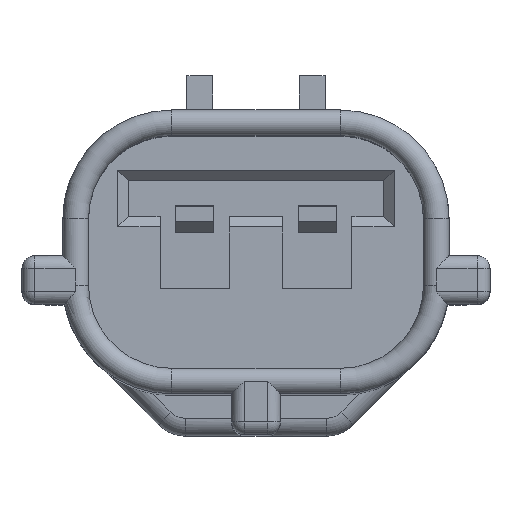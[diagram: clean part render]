
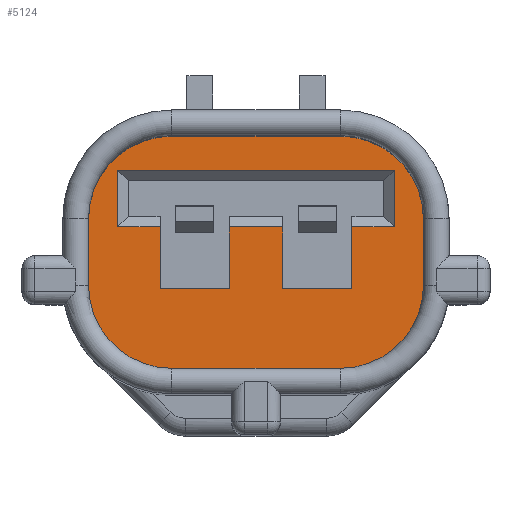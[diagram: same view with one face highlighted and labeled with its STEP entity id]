
A CAD part, top view. The second image highlights one B-rep face of the part: STEP entity #5124.
In plain terms, the highlighted planar face has unit normal (0, 0, 1).
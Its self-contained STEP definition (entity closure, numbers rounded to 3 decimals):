
#1679=CARTESIAN_POINT('',(-3.3,-1.3,-14.2));
#1680=DIRECTION('',(0.,0.,1.));
#1681=DIRECTION('',(-1.,0.,0.));
#1682=AXIS2_PLACEMENT_3D('',#1679,#1680,#1681);
#1684=DIRECTION('',(0.,-1.,0.));
#1685=VECTOR('',#1684,2.6);
#1686=CARTESIAN_POINT('',(-6.55,1.3,-14.2));
#1687=LINE('',#1686,#1685);
#1688=CARTESIAN_POINT('',(-3.3,1.3,-14.2));
#1689=DIRECTION('',(0.,0.,1.));
#1690=DIRECTION('',(0.,1.,0.));
#1691=AXIS2_PLACEMENT_3D('',#1688,#1689,#1690);
#1693=DIRECTION('',(-1.,0.,0.));
#1694=VECTOR('',#1693,6.6);
#1695=CARTESIAN_POINT('',(3.3,4.55,-14.2));
#1696=LINE('',#1695,#1694);
#1697=CARTESIAN_POINT('',(3.3,1.3,-14.2));
#1698=DIRECTION('',(0.,0.,1.));
#1699=DIRECTION('',(1.,0.,0.));
#1700=AXIS2_PLACEMENT_3D('',#1697,#1698,#1699);
#1702=DIRECTION('',(0.,1.,0.));
#1703=VECTOR('',#1702,2.6);
#1704=CARTESIAN_POINT('',(6.55,-1.3,-14.2));
#1705=LINE('',#1704,#1703);
#1706=CARTESIAN_POINT('',(3.3,-1.3,-14.2));
#1707=DIRECTION('',(0.,0.,1.));
#1708=DIRECTION('',(0.,-1.,0.));
#1709=AXIS2_PLACEMENT_3D('',#1706,#1707,#1708);
#1711=DIRECTION('',(1.,0.,0.));
#1712=VECTOR('',#1711,6.6);
#1713=CARTESIAN_POINT('',(-3.3,-4.55,-14.2));
#1714=LINE('',#1713,#1712);
#1715=DIRECTION('',(-1.,0.,0.));
#1716=VECTOR('',#1715,1.65);
#1717=CARTESIAN_POINT('',(-3.75,1.,-14.2));
#1718=LINE('',#1717,#1716);
#1719=DIRECTION('',(0.,-1.,0.));
#1720=VECTOR('',#1719,2.4);
#1721=CARTESIAN_POINT('',(-3.75,1.,-14.2));
#1722=LINE('',#1721,#1720);
#1723=DIRECTION('',(1.,0.,0.));
#1724=VECTOR('',#1723,2.7);
#1725=CARTESIAN_POINT('',(-3.75,-1.4,-14.2));
#1726=LINE('',#1725,#1724);
#1727=DIRECTION('',(0.,1.,0.));
#1728=VECTOR('',#1727,2.4);
#1729=CARTESIAN_POINT('',(-1.05,-1.4,-14.2));
#1730=LINE('',#1729,#1728);
#1731=DIRECTION('',(-1.,0.,0.));
#1732=VECTOR('',#1731,2.1);
#1733=CARTESIAN_POINT('',(1.05,1.,-14.2));
#1734=LINE('',#1733,#1732);
#1735=DIRECTION('',(0.,-1.,0.));
#1736=VECTOR('',#1735,2.4);
#1737=CARTESIAN_POINT('',(1.05,1.,-14.2));
#1738=LINE('',#1737,#1736);
#1739=DIRECTION('',(1.,0.,0.));
#1740=VECTOR('',#1739,2.7);
#1741=CARTESIAN_POINT('',(1.05,-1.4,-14.2));
#1742=LINE('',#1741,#1740);
#1743=DIRECTION('',(0.,1.,0.));
#1744=VECTOR('',#1743,2.4);
#1745=CARTESIAN_POINT('',(3.75,-1.4,-14.2));
#1746=LINE('',#1745,#1744);
#1747=DIRECTION('',(-1.,0.,0.));
#1748=VECTOR('',#1747,1.65);
#1749=CARTESIAN_POINT('',(5.4,1.,-14.2));
#1750=LINE('',#1749,#1748);
#1751=DIRECTION('',(0.,-1.,0.));
#1752=VECTOR('',#1751,2.2);
#1753=CARTESIAN_POINT('',(5.4,3.2,-14.2));
#1754=LINE('',#1753,#1752);
#1755=DIRECTION('',(1.,0.,0.));
#1756=VECTOR('',#1755,10.8);
#1757=CARTESIAN_POINT('',(-5.4,3.2,-14.2));
#1758=LINE('',#1757,#1756);
#1759=DIRECTION('',(0.,1.,0.));
#1760=VECTOR('',#1759,2.2);
#1761=CARTESIAN_POINT('',(-5.4,1.,-14.2));
#1762=LINE('',#1761,#1760);
#2281=CARTESIAN_POINT('',(-6.55,-1.3,-14.2));
#2282=CARTESIAN_POINT('',(-3.3,-4.55,-14.2));
#2283=VERTEX_POINT('',#2281);
#2284=VERTEX_POINT('',#2282);
#2285=CARTESIAN_POINT('',(3.3,-4.55,-14.2));
#2286=VERTEX_POINT('',#2285);
#2287=CARTESIAN_POINT('',(6.55,-1.3,-14.2));
#2288=VERTEX_POINT('',#2287);
#2289=CARTESIAN_POINT('',(6.55,1.3,-14.2));
#2290=VERTEX_POINT('',#2289);
#2291=CARTESIAN_POINT('',(3.3,4.55,-14.2));
#2292=VERTEX_POINT('',#2291);
#2293=CARTESIAN_POINT('',(-3.3,4.55,-14.2));
#2294=VERTEX_POINT('',#2293);
#2295=CARTESIAN_POINT('',(-6.55,1.3,-14.2));
#2296=VERTEX_POINT('',#2295);
#2538=CARTESIAN_POINT('',(-3.75,-1.4,-14.2));
#2539=CARTESIAN_POINT('',(-1.05,-1.4,-14.2));
#2540=VERTEX_POINT('',#2538);
#2541=VERTEX_POINT('',#2539);
#2558=CARTESIAN_POINT('',(1.05,-1.4,-14.2));
#2559=CARTESIAN_POINT('',(3.75,-1.4,-14.2));
#2560=VERTEX_POINT('',#2558);
#2561=VERTEX_POINT('',#2559);
#2571=CARTESIAN_POINT('',(-3.75,1.,-14.2));
#2573=VERTEX_POINT('',#2571);
#2574=CARTESIAN_POINT('',(-5.4,1.,-14.2));
#2575=VERTEX_POINT('',#2574);
#2578=CARTESIAN_POINT('',(-5.4,3.2,-14.2));
#2579=VERTEX_POINT('',#2578);
#2582=CARTESIAN_POINT('',(5.4,3.2,-14.2));
#2583=VERTEX_POINT('',#2582);
#2586=CARTESIAN_POINT('',(5.4,1.,-14.2));
#2587=VERTEX_POINT('',#2586);
#2590=CARTESIAN_POINT('',(3.75,1.,-14.2));
#2592=VERTEX_POINT('',#2590);
#2594=CARTESIAN_POINT('',(-1.05,1.,-14.2));
#2596=VERTEX_POINT('',#2594);
#2600=CARTESIAN_POINT('',(1.05,1.,-14.2));
#2601=VERTEX_POINT('',#2600);
#5080=CARTESIAN_POINT('',(0.,0.,-14.2));
#5081=DIRECTION('',(0.,0.,1.));
#5082=DIRECTION('',(1.,0.,0.));
#5083=AXIS2_PLACEMENT_3D('',#5080,#5081,#5082);
#5084=PLANE('',#5083);
#5085=ORIENTED_EDGE('',*,*,#3480,.F.);
#5087=ORIENTED_EDGE('',*,*,#5086,.F.);
#5089=ORIENTED_EDGE('',*,*,#5088,.F.);
#5091=ORIENTED_EDGE('',*,*,#5090,.F.);
#5092=ORIENTED_EDGE('',*,*,#5060,.F.);
#5093=ORIENTED_EDGE('',*,*,#5074,.F.);
#5094=ORIENTED_EDGE('',*,*,#3450,.F.);
#5095=ORIENTED_EDGE('',*,*,#3465,.F.);
#5096=EDGE_LOOP('',(#5085,#5087,#5089,#5091,#5092,#5093,#5094,#5095));
#5097=FACE_OUTER_BOUND('',#5096,.F.);
#5099=ORIENTED_EDGE('',*,*,#5098,.F.);
#5101=ORIENTED_EDGE('',*,*,#5100,.T.);
#5103=ORIENTED_EDGE('',*,*,#5102,.T.);
#5105=ORIENTED_EDGE('',*,*,#5104,.T.);
#5107=ORIENTED_EDGE('',*,*,#5106,.F.);
#5109=ORIENTED_EDGE('',*,*,#5108,.T.);
#5111=ORIENTED_EDGE('',*,*,#5110,.T.);
#5113=ORIENTED_EDGE('',*,*,#5112,.T.);
#5115=ORIENTED_EDGE('',*,*,#5114,.F.);
#5117=ORIENTED_EDGE('',*,*,#5116,.F.);
#5119=ORIENTED_EDGE('',*,*,#5118,.F.);
#5121=ORIENTED_EDGE('',*,*,#5120,.F.);
#5122=EDGE_LOOP('',(#5099,#5101,#5103,#5105,#5107,#5109,#5111,#5113,#5115,#5117,
#5119,#5121));
#5123=FACE_BOUND('',#5122,.F.);
#1683=CIRCLE('',#1682,3.25);
#1692=CIRCLE('',#1691,3.25);
#1701=CIRCLE('',#1700,3.25);
#1710=CIRCLE('',#1709,3.25);
#3450=EDGE_CURVE('',#2286,#2288,#1710,.T.);
#3465=EDGE_CURVE('',#2284,#2286,#1714,.T.);
#3480=EDGE_CURVE('',#2283,#2284,#1683,.T.);
#5060=EDGE_CURVE('',#2290,#2292,#1701,.T.);
#5074=EDGE_CURVE('',#2288,#2290,#1705,.T.);
#5086=EDGE_CURVE('',#2296,#2283,#1687,.T.);
#5088=EDGE_CURVE('',#2294,#2296,#1692,.T.);
#5090=EDGE_CURVE('',#2292,#2294,#1696,.T.);
#5098=EDGE_CURVE('',#2573,#2575,#1718,.T.);
#5100=EDGE_CURVE('',#2573,#2540,#1722,.T.);
#5102=EDGE_CURVE('',#2540,#2541,#1726,.T.);
#5104=EDGE_CURVE('',#2541,#2596,#1730,.T.);
#5106=EDGE_CURVE('',#2601,#2596,#1734,.T.);
#5108=EDGE_CURVE('',#2601,#2560,#1738,.T.);
#5110=EDGE_CURVE('',#2560,#2561,#1742,.T.);
#5112=EDGE_CURVE('',#2561,#2592,#1746,.T.);
#5114=EDGE_CURVE('',#2587,#2592,#1750,.T.);
#5116=EDGE_CURVE('',#2583,#2587,#1754,.T.);
#5118=EDGE_CURVE('',#2579,#2583,#1758,.T.);
#5120=EDGE_CURVE('',#2575,#2579,#1762,.T.);
#5124=ADVANCED_FACE('',(#5097,#5123),#5084,.T.);
